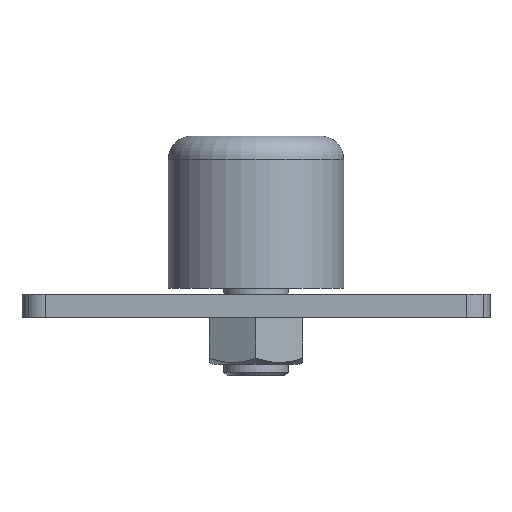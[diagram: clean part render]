
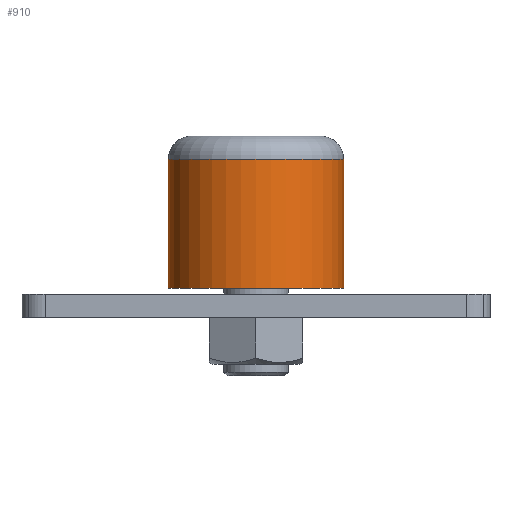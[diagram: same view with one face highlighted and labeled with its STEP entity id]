
A CAD part, front view. The second image highlights one B-rep face of the part: STEP entity #910.
In plain terms, the highlighted cylindrical face has radius 7.5 mm (diameter 15 mm), a partial arc.
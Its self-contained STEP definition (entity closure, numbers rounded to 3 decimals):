
#9 = CARTESIAN_POINT ( 'NONE',  ( 9.032, 36.997, 13.5 ) ) ;
#60 = FACE_OUTER_BOUND ( 'NONE', #1325, .T. ) ;
#67 = EDGE_CURVE ( 'NONE', #1120, #615, #1143, .T. ) ;
#76 = AXIS2_PLACEMENT_3D ( 'NONE', #496, #1217, #283 ) ;
#84 = EDGE_CURVE ( 'NONE', #625, #615, #1145, .T. ) ;
#104 = DIRECTION ( 'NONE',  ( 0., 0., 1. ) ) ;
#158 = DIRECTION ( 'NONE',  ( -1., 0., 0. ) ) ;
#159 = DIRECTION ( 'NONE',  ( -1., 0., 0. ) ) ;
#199 = CARTESIAN_POINT ( 'NONE',  ( 9.032, 36.997, 2.5 ) ) ;
#257 = EDGE_CURVE ( 'NONE', #625, #769, #1095, .T. ) ;
#283 = DIRECTION ( 'NONE',  ( -1., 0., 0. ) ) ;
#324 = VECTOR ( 'NONE', #104, 1000. ) ;
#362 = ORIENTED_EDGE ( 'NONE', *, *, #1237, .F. ) ;
#377 = ORIENTED_EDGE ( 'NONE', *, *, #257, .F. ) ;
#474 = AXIS2_PLACEMENT_3D ( 'NONE', #1199, #1092, #159 ) ;
#487 = DIRECTION ( 'NONE',  ( 0., 0., 1. ) ) ;
#496 = CARTESIAN_POINT ( 'NONE',  ( 1.532, 36.997, 2.5 ) ) ;
#558 = ORIENTED_EDGE ( 'NONE', *, *, #84, .T. ) ;
#615 = VERTEX_POINT ( 'NONE', #9 ) ;
#621 = LINE ( 'NONE', #1141, #324 ) ;
#625 = VERTEX_POINT ( 'NONE', #199 ) ;
#676 = CYLINDRICAL_SURFACE ( 'NONE', #773, 7.5 ) ;
#736 = CARTESIAN_POINT ( 'NONE',  ( -5.968, 36.997, 13.5 ) ) ;
#769 = VERTEX_POINT ( 'NONE', #898 ) ;
#773 = AXIS2_PLACEMENT_3D ( 'NONE', #1305, #487, #158 ) ;
#877 = ORIENTED_EDGE ( 'NONE', *, *, #67, .F. ) ;
#898 = CARTESIAN_POINT ( 'NONE',  ( -5.968, 36.997, 2.5 ) ) ;
#910 = ADVANCED_FACE ( 'NONE', ( #60 ), #676, .T. ) ;
#919 = DIRECTION ( 'NONE',  ( 0., 0., 1. ) ) ;
#938 = CARTESIAN_POINT ( 'NONE',  ( 9.032, 36.997, 2.5 ) ) ;
#1092 = DIRECTION ( 'NONE',  ( 0., 0., 1. ) ) ;
#1095 = CIRCLE ( 'NONE', #76, 7.5 ) ;
#1120 = VERTEX_POINT ( 'NONE', #736 ) ;
#1141 = CARTESIAN_POINT ( 'NONE',  ( -5.968, 36.997, 2.5 ) ) ;
#1143 = CIRCLE ( 'NONE', #474, 7.5 ) ;
#1145 = LINE ( 'NONE', #938, #1317 ) ;
#1199 = CARTESIAN_POINT ( 'NONE',  ( 1.532, 36.997, 13.5 ) ) ;
#1217 = DIRECTION ( 'NONE',  ( 0., 0., -1. ) ) ;
#1237 = EDGE_CURVE ( 'NONE', #769, #1120, #621, .T. ) ;
#1305 = CARTESIAN_POINT ( 'NONE',  ( 1.532, 36.997, 2.5 ) ) ;
#1317 = VECTOR ( 'NONE', #919, 1000. ) ;
#1325 = EDGE_LOOP ( 'NONE', ( #377, #558, #877, #362 ) ) ;
